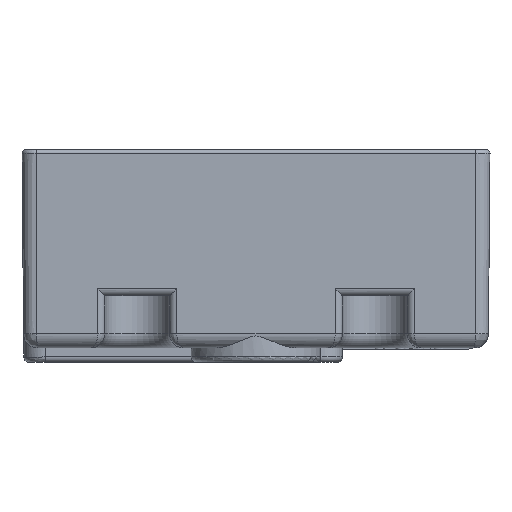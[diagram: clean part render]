
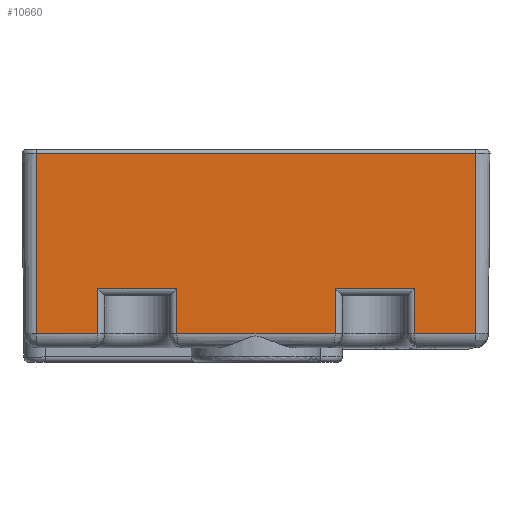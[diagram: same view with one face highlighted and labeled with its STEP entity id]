
A CAD part, front view. The second image highlights one B-rep face of the part: STEP entity #10660.
In plain terms, the highlighted planar face has unit normal (0, -1, -0.009).
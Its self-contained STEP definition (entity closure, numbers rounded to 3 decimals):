
#128=ELLIPSE('',#11640,2.,2.);
#130=ELLIPSE('',#11645,2.,2.);
#131=ELLIPSE('',#11646,2.,2.);
#132=ELLIPSE('',#11647,2.,2.);
#763=PLANE('',#11644);
#1260=FACE_OUTER_BOUND('',#1914,.T.);
#1914=EDGE_LOOP('',(#9182,#9183,#9184,#9185,#9186,#9187,#9188,#9189,#9190,
#9191,#9192,#9193,#9194,#9195,#9196,#9197));
#2775=LINE('',#21396,#3600);
#2779=LINE('',#21425,#3604);
#2803=LINE('',#21868,#3628);
#2806=LINE('',#21935,#3631);
#2807=LINE('',#21937,#3632);
#2808=LINE('',#21941,#3633);
#2809=LINE('',#21943,#3634);
#2810=LINE('',#21945,#3635);
#2811=LINE('',#21948,#3636);
#2812=LINE('',#21950,#3637);
#2813=LINE('',#21954,#3638);
#2814=LINE('',#21955,#3639);
#3600=VECTOR('',#13954,10.);
#3604=VECTOR('',#13986,10.);
#3628=VECTOR('',#14124,10.);
#3631=VECTOR('',#14145,10.);
#3632=VECTOR('',#14146,10.);
#3633=VECTOR('',#14149,10.);
#3634=VECTOR('',#14150,10.);
#3635=VECTOR('',#14151,10.);
#3636=VECTOR('',#14154,10.);
#3637=VECTOR('',#14155,10.);
#3638=VECTOR('',#14158,10.);
#3639=VECTOR('',#14159,10.);
#5067=VERTEX_POINT('',#21393);
#5068=VERTEX_POINT('',#21395);
#5077=VERTEX_POINT('',#21417);
#5079=VERTEX_POINT('',#21423);
#5121=VERTEX_POINT('',#21864);
#5123=VERTEX_POINT('',#21867);
#5128=VERTEX_POINT('',#21934);
#5129=VERTEX_POINT('',#21936);
#5130=VERTEX_POINT('',#21938);
#5131=VERTEX_POINT('',#21940);
#5132=VERTEX_POINT('',#21942);
#5133=VERTEX_POINT('',#21944);
#5134=VERTEX_POINT('',#21947);
#5135=VERTEX_POINT('',#21949);
#5136=VERTEX_POINT('',#21951);
#5137=VERTEX_POINT('',#21953);
#6485=EDGE_CURVE('',#5067,#5068,#2775,.T.);
#6499=EDGE_CURVE('',#5079,#5077,#2779,.T.);
#6569=EDGE_CURVE('',#5121,#5123,#2803,.T.);
#6575=EDGE_CURVE('',#5123,#5067,#128,.T.);
#6579=EDGE_CURVE('',#5128,#5079,#2806,.T.);
#6580=EDGE_CURVE('',#5129,#5128,#2807,.T.);
#6581=EDGE_CURVE('',#5130,#5129,#130,.T.);
#6582=EDGE_CURVE('',#5131,#5130,#2808,.T.);
#6583=EDGE_CURVE('',#5131,#5132,#2809,.T.);
#6584=EDGE_CURVE('',#5133,#5132,#2810,.T.);
#6585=EDGE_CURVE('',#5068,#5133,#131,.T.);
#6586=EDGE_CURVE('',#5121,#5134,#2811,.T.);
#6587=EDGE_CURVE('',#5135,#5134,#2812,.T.);
#6588=EDGE_CURVE('',#5136,#5135,#132,.T.);
#6589=EDGE_CURVE('',#5137,#5136,#2813,.T.);
#6590=EDGE_CURVE('',#5077,#5137,#2814,.T.);
#9182=ORIENTED_EDGE('',*,*,#6499,.F.);
#9183=ORIENTED_EDGE('',*,*,#6579,.F.);
#9184=ORIENTED_EDGE('',*,*,#6580,.F.);
#9185=ORIENTED_EDGE('',*,*,#6581,.F.);
#9186=ORIENTED_EDGE('',*,*,#6582,.F.);
#9187=ORIENTED_EDGE('',*,*,#6583,.T.);
#9188=ORIENTED_EDGE('',*,*,#6584,.F.);
#9189=ORIENTED_EDGE('',*,*,#6585,.F.);
#9190=ORIENTED_EDGE('',*,*,#6485,.F.);
#9191=ORIENTED_EDGE('',*,*,#6575,.F.);
#9192=ORIENTED_EDGE('',*,*,#6569,.F.);
#9193=ORIENTED_EDGE('',*,*,#6586,.T.);
#9194=ORIENTED_EDGE('',*,*,#6587,.F.);
#9195=ORIENTED_EDGE('',*,*,#6588,.F.);
#9196=ORIENTED_EDGE('',*,*,#6589,.F.);
#9197=ORIENTED_EDGE('',*,*,#6590,.F.);
#10660=ADVANCED_FACE('',(#1260),#763,.T.);
#11640=AXIS2_PLACEMENT_3D('',#21897,#14134,#14135);
#11644=AXIS2_PLACEMENT_3D('',#21933,#14143,#14144);
#11645=AXIS2_PLACEMENT_3D('',#21939,#14147,#14148);
#11646=AXIS2_PLACEMENT_3D('',#21946,#14152,#14153);
#11647=AXIS2_PLACEMENT_3D('',#21952,#14156,#14157);
#13954=DIRECTION('',(-1.,0.,0.));
#13986=DIRECTION('',(1.,0.,0.));
#14124=DIRECTION('',(0.,0.009,-1.));
#14134=DIRECTION('center_axis',(0.,1.,0.009));
#14135=DIRECTION('ref_axis',(0.,0.009,
-1.));
#14143=DIRECTION('center_axis',(0.,-1.,-0.009));
#14144=DIRECTION('ref_axis',(1.,0.,0.));
#14145=DIRECTION('',(0.,-0.009,1.));
#14146=DIRECTION('',(-1.,0.,0.));
#14147=DIRECTION('center_axis',(0.,1.,0.009));
#14148=DIRECTION('ref_axis',(0.,0.009,-1.));
#14149=DIRECTION('',(0.,0.009,-1.));
#14150=DIRECTION('',(1.,0.,0.));
#14151=DIRECTION('',(0.,-0.009,1.));
#14152=DIRECTION('center_axis',(0.,1.,0.009));
#14153=DIRECTION('ref_axis',(0.,0.009,-1.));
#14154=DIRECTION('',(1.,0.,0.));
#14155=DIRECTION('',(0.,-0.009,1.));
#14156=DIRECTION('center_axis',(0.,1.,0.009));
#14157=DIRECTION('ref_axis',(0.,0.009,
-1.));
#14158=DIRECTION('',(-1.,0.,0.));
#14159=DIRECTION('',(0.,0.009,-1.));
#21393=CARTESIAN_POINT('',(22.,-94.054,3.965));
#21395=CARTESIAN_POINT('',(-22.,-94.054,3.965));
#21396=CARTESIAN_POINT('',(-32.5,-94.054,3.965));
#21417=CARTESIAN_POINT('',(61.,-94.491,54.091));
#21423=CARTESIAN_POINT('',(-61.,-94.491,54.091));
#21425=CARTESIAN_POINT('',(-32.5,-94.491,54.091));
#21864=CARTESIAN_POINT('',(22.,-94.163,16.483));
#21867=CARTESIAN_POINT('',(22.,-94.054,3.983));
#21868=CARTESIAN_POINT('',(22.,-94.019,-0.034));
#21897=CARTESIAN_POINT('Origin',(20.,-94.054,3.983));
#21933=CARTESIAN_POINT('Origin',(-65.,-94.019,0.002));
#21934=CARTESIAN_POINT('',(-61.,-94.054,3.965));
#21935=CARTESIAN_POINT('',(-61.,-94.019,0.002));
#21936=CARTESIAN_POINT('',(-44.,-94.054,3.965));
#21937=CARTESIAN_POINT('',(-32.5,-94.054,3.965));
#21938=CARTESIAN_POINT('',(-44.,-94.054,3.983));
#21939=CARTESIAN_POINT('Origin',(-46.,-94.054,3.983));
#21940=CARTESIAN_POINT('',(-44.,-94.163,16.483));
#21941=CARTESIAN_POINT('',(-44.,-94.019,-0.034));
#21942=CARTESIAN_POINT('',(-22.,-94.163,16.483));
#21943=CARTESIAN_POINT('',(-16.,-94.163,16.483));
#21944=CARTESIAN_POINT('',(-22.,-94.054,3.983));
#21945=CARTESIAN_POINT('',(-22.,-94.019,0.003));
#21946=CARTESIAN_POINT('Origin',(-20.,-94.054,3.983));
#21947=CARTESIAN_POINT('',(44.,-94.163,16.483));
#21948=CARTESIAN_POINT('',(-16.,-94.163,16.483));
#21949=CARTESIAN_POINT('',(44.,-94.054,3.983));
#21950=CARTESIAN_POINT('',(44.,-94.019,0.003));
#21951=CARTESIAN_POINT('',(44.,-94.054,3.965));
#21952=CARTESIAN_POINT('Origin',(46.,-94.054,3.983));
#21953=CARTESIAN_POINT('',(61.,-94.054,3.965));
#21954=CARTESIAN_POINT('',(-32.5,-94.054,3.965));
#21955=CARTESIAN_POINT('',(61.,-94.019,0.002));
